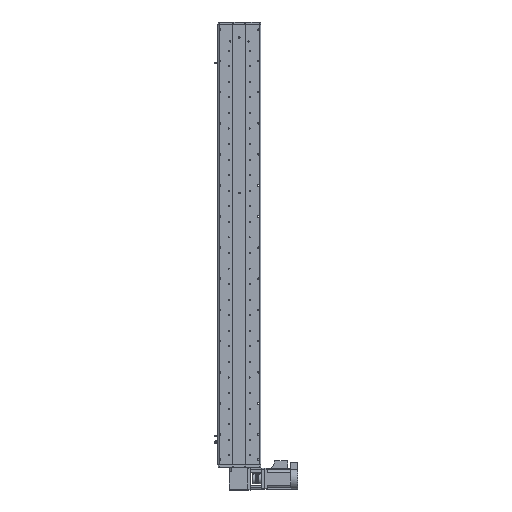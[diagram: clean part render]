
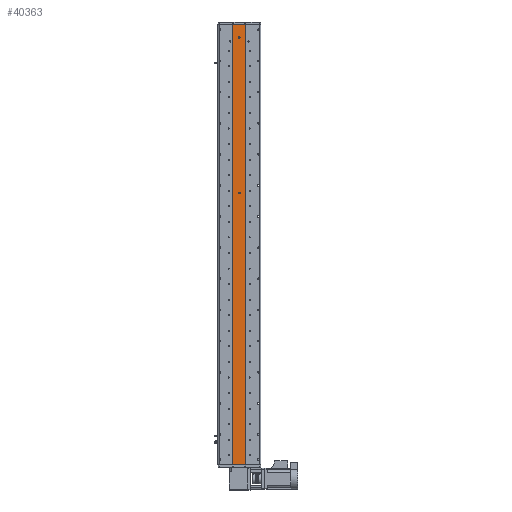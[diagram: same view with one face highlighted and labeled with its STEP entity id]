
A CAD part, front view. The second image highlights one B-rep face of the part: STEP entity #40363.
In plain terms, the highlighted planar face has unit normal (0, -1, 0).
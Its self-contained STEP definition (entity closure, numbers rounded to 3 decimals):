
#670 = EDGE_LOOP ( 'NONE', ( #3323, #16377 ) ) ;
#2790 = VERTEX_POINT ( 'NONE', #26225 ) ;
#3171 = VECTOR ( 'NONE', #37036, 1000. ) ;
#3311 = EDGE_CURVE ( 'NONE', #38109, #6331, #32271, .T. ) ;
#3323 = ORIENTED_EDGE ( 'NONE', *, *, #25642, .F. ) ;
#4526 = AXIS2_PLACEMENT_3D ( 'NONE', #44869, #20511, #48923 ) ;
#5018 = CARTESIAN_POINT ( 'NONE',  ( 0., 1., 798.5 ) ) ;
#5223 = EDGE_CURVE ( 'NONE', #17139, #2790, #19416, .T. ) ;
#6157 = ORIENTED_EDGE ( 'NONE', *, *, #33065, .F. ) ;
#6331 = VERTEX_POINT ( 'NONE', #21309 ) ;
#8621 = VERTEX_POINT ( 'NONE', #36111 ) ;
#8740 = VERTEX_POINT ( 'NONE', #18606 ) ;
#9091 = CARTESIAN_POINT ( 'NONE',  ( 0., 1., 201.5 ) ) ;
#9118 = DIRECTION ( 'NONE',  ( 0., 0., -1. ) ) ;
#9781 = CARTESIAN_POINT ( 'NONE',  ( 25., 1., 848.5 ) ) ;
#10009 = CARTESIAN_POINT ( 'NONE',  ( 25., 1., -848.5 ) ) ;
#10138 = LINE ( 'NONE', #16777, #3171 ) ;
#12525 = ORIENTED_EDGE ( 'NONE', *, *, #20655, .T. ) ;
#14303 = CARTESIAN_POINT ( 'NONE',  ( 0., 1., 198.5 ) ) ;
#14781 = ORIENTED_EDGE ( 'NONE', *, *, #5223, .F. ) ;
#16018 = DIRECTION ( 'NONE',  ( 0., -1., 0. ) ) ;
#16377 = ORIENTED_EDGE ( 'NONE', *, *, #47056, .F. ) ;
#16777 = CARTESIAN_POINT ( 'NONE',  ( 25., 1., 848.5 ) ) ;
#16956 = EDGE_LOOP ( 'NONE', ( #6157, #14781 ) ) ;
#17139 = VERTEX_POINT ( 'NONE', #9091 ) ;
#18328 = DIRECTION ( 'NONE',  ( 0., 0., -1. ) ) ;
#18606 = CARTESIAN_POINT ( 'NONE',  ( 0., 1., 801.5 ) ) ;
#19029 = CARTESIAN_POINT ( 'NONE',  ( 25., 1., 848.5 ) ) ;
#19211 = DIRECTION ( 'NONE',  ( 0., 0., 1. ) ) ;
#19416 = CIRCLE ( 'NONE', #35948, 3. ) ;
#20415 = ORIENTED_EDGE ( 'NONE', *, *, #3311, .F. ) ;
#20511 = DIRECTION ( 'NONE',  ( 0., -1., 0. ) ) ;
#20655 = EDGE_CURVE ( 'NONE', #51786, #41153, #28626, .T. ) ;
#21309 = CARTESIAN_POINT ( 'NONE',  ( 25., 1., 848.5 ) ) ;
#21473 = VECTOR ( 'NONE', #46345, 1000. ) ;
#21569 = EDGE_CURVE ( 'NONE', #6331, #41153, #10138, .T. ) ;
#22300 = EDGE_CURVE ( 'NONE', #38109, #51786, #43673, .T. ) ;
#23794 = FACE_OUTER_BOUND ( 'NONE', #41784, .T. ) ;
#25642 = EDGE_CURVE ( 'NONE', #8621, #8740, #46543, .T. ) ;
#26225 = CARTESIAN_POINT ( 'NONE',  ( 0., 1., 195.5 ) ) ;
#28626 = LINE ( 'NONE', #10009, #39435 ) ;
#29590 = CARTESIAN_POINT ( 'NONE',  ( 25., 1., -848.5 ) ) ;
#30751 = CARTESIAN_POINT ( 'NONE',  ( -25., 1., 848.5 ) ) ;
#31325 = PLANE ( 'NONE',  #44048 ) ;
#32271 = LINE ( 'NONE', #9781, #21473 ) ;
#32863 = VECTOR ( 'NONE', #36899, 1000. ) ;
#33065 = EDGE_CURVE ( 'NONE', #2790, #17139, #43749, .T. ) ;
#33430 = DIRECTION ( 'NONE',  ( 0., -1., 0. ) ) ;
#33766 = AXIS2_PLACEMENT_3D ( 'NONE', #5018, #33430, #9118 ) ;
#33983 = AXIS2_PLACEMENT_3D ( 'NONE', #40361, #16018, #44469 ) ;
#34300 = DIRECTION ( 'NONE',  ( 1., 0., 0. ) ) ;
#34612 = FACE_BOUND ( 'NONE', #16956, .T. ) ;
#35948 = AXIS2_PLACEMENT_3D ( 'NONE', #14303, #42739, #18328 ) ;
#36111 = CARTESIAN_POINT ( 'NONE',  ( 0., 1., 795.5 ) ) ;
#36899 = DIRECTION ( 'NONE',  ( 0., 0., -1. ) ) ;
#37036 = DIRECTION ( 'NONE',  ( 0., 0., -1. ) ) ;
#38109 = VERTEX_POINT ( 'NONE', #30751 ) ;
#39435 = VECTOR ( 'NONE', #34300, 1000. ) ;
#39962 = CARTESIAN_POINT ( 'NONE',  ( -25., 1., -848.5 ) ) ;
#40361 = CARTESIAN_POINT ( 'NONE',  ( 0., 1., 798.5 ) ) ;
#40363 = ADVANCED_FACE ( 'NONE', ( #34612, #44168, #23794 ), #31325, .F. ) ;
#41017 = CARTESIAN_POINT ( 'NONE',  ( -25., 1., 848.5 ) ) ;
#41153 = VERTEX_POINT ( 'NONE', #29590 ) ;
#41483 = ORIENTED_EDGE ( 'NONE', *, *, #22300, .T. ) ;
#41784 = EDGE_LOOP ( 'NONE', ( #12525, #48357, #20415, #41483 ) ) ;
#42739 = DIRECTION ( 'NONE',  ( 0., -1., 0. ) ) ;
#43603 = DIRECTION ( 'NONE',  ( 0., 1., 0. ) ) ;
#43673 = LINE ( 'NONE', #41017, #32863 ) ;
#43749 = CIRCLE ( 'NONE', #4526, 3. ) ;
#44048 = AXIS2_PLACEMENT_3D ( 'NONE', #19029, #43603, #19211 ) ;
#44168 = FACE_BOUND ( 'NONE', #670, .T. ) ;
#44469 = DIRECTION ( 'NONE',  ( 0., 0., -1. ) ) ;
#44869 = CARTESIAN_POINT ( 'NONE',  ( 0., 1., 198.5 ) ) ;
#46345 = DIRECTION ( 'NONE',  ( 1., 0., 0. ) ) ;
#46543 = CIRCLE ( 'NONE', #33766, 3. ) ;
#47056 = EDGE_CURVE ( 'NONE', #8740, #8621, #47808, .T. ) ;
#47808 = CIRCLE ( 'NONE', #33983, 3. ) ;
#48357 = ORIENTED_EDGE ( 'NONE', *, *, #21569, .F. ) ;
#48923 = DIRECTION ( 'NONE',  ( 0., 0., -1. ) ) ;
#51786 = VERTEX_POINT ( 'NONE', #39962 ) ;
